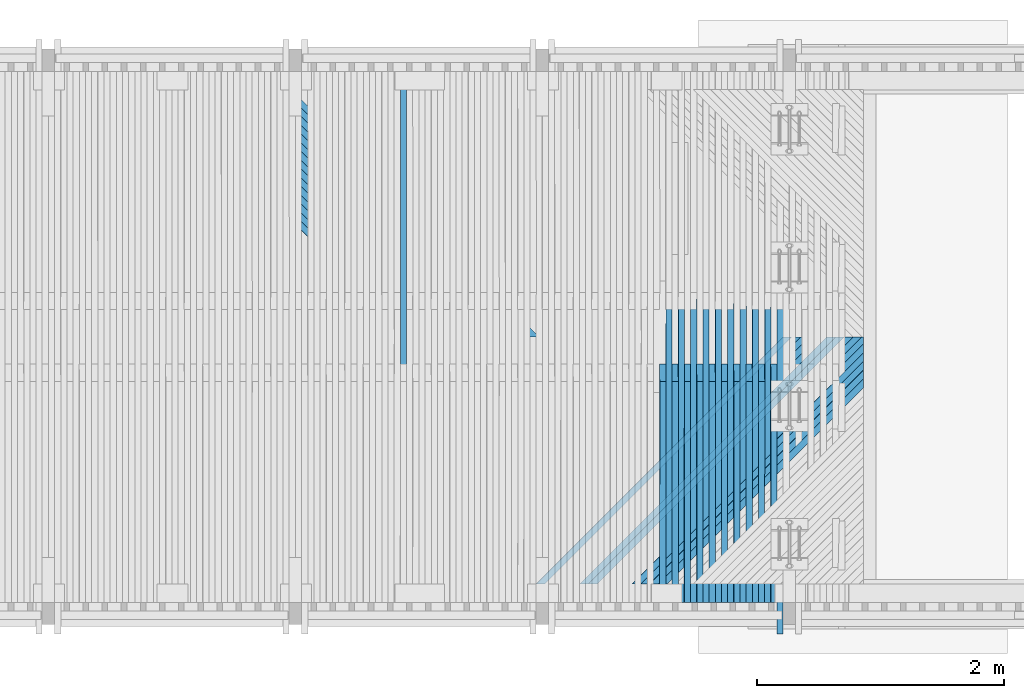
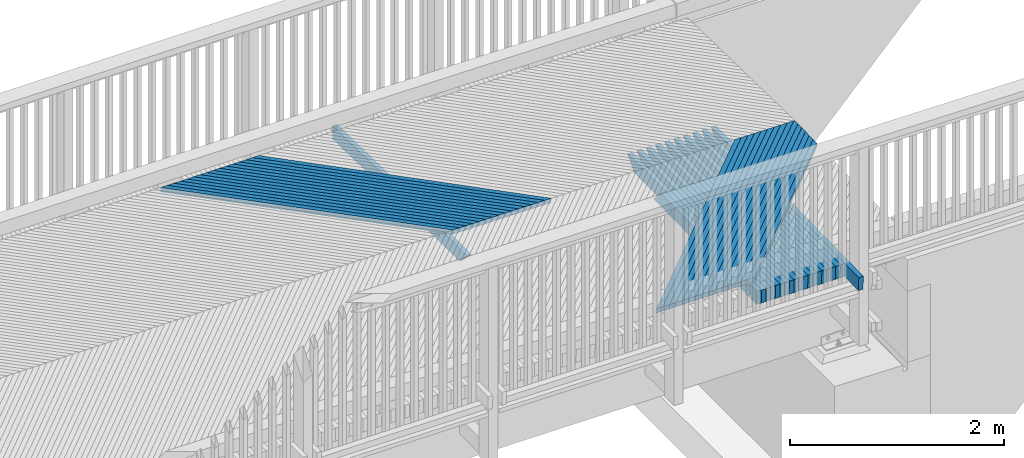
# One storey, part 40 of 52: 51 beams.
"""IFC2X3 building model written with IfcOpenShell, lengths in millimetres."""

from ifc_helpers import new_model, si_unit, frame, origin_with_axes, place, context, subcontext, project, spatial, faceted_brep, material, type_object, element, save


model = new_model("IFC2X3")

# Units and contexts
model_context = context("Model", 3, precision=1e-05, world=origin_with_axes())
body_context = subcontext(model_context, "Body", "Model", "MODEL_VIEW")
ifc_project = project(units=[si_unit("LENGTHUNIT", "METRE", prefix="MILLI"), si_unit("AREAUNIT", "SQUARE_METRE"), si_unit("VOLUMEUNIT", "CUBIC_METRE"), si_unit("MASSUNIT", "GRAM", prefix="KILO"), si_unit("TIMEUNIT", "SECOND"), si_unit("PLANEANGLEUNIT", "RADIAN"), si_unit("SOLIDANGLEUNIT", "STERADIAN"), si_unit("THERMODYNAMICTEMPERATUREUNIT", "DEGREE_CELSIUS"), si_unit("LUMINOUSINTENSITYUNIT", "LUMEN")], contexts=[model_context])

# Site, building, storey
site_placement = place(None, origin_with_axes())
site = spatial("IfcSite", under=ifc_project, at=site_placement, Name="Undefined", CompositionType="ELEMENT")
building_placement = place(site_placement, origin_with_axes())
building = spatial("IfcBuilding", under=site, at=building_placement, Name="Undefined", CompositionType="ELEMENT")
storey_placement = place(building_placement, origin_with_axes())
storey = spatial("IfcBuildingStorey", under=building, at=storey_placement, Name="Undefined", CompositionType="ELEMENT", Elevation=0.0)

# Beams
ifc_material = material(Name="TIMBER/Timber_Undefined")
beam_type_1 = type_object("IfcBeamType", Name="50*50", PredefinedType="NOTDEFINED")
beam_1_placement = place(storey_placement, frame((16976.0032446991, 2364.50010032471, 3169.21309384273), z_axis=(0.70684402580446, -0.706981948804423, -0.0234104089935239), x_axis=(-0.707247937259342, -0.706948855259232, -0.00486531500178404)))
element("IfcBeam", 1, at=beam_1_placement, inside=storey, type_object=beam_type_1, material=ifc_material, Name="BEAM", ObjectType="50*50", context=body_context, shape_type="Brep", body=[
    faceted_brep([(2802.92643296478, -25.0, 25.0000000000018), (2852.92877373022, -25.0, -24.9999999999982), (2854.34301907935, 25.0, -24.9999999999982), (2804.3406783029, 25.0000000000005, 25.0000000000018), (506.193611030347, 25.0, -24.9999999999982), (556.165055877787, 25.0, 25.0), (557.091907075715, -24.9999999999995, 25.0000000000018), (507.120462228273, -25.0, -24.9999999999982)], [[[0, 1, 2, 3]], [[3, 2, 4, 5]], [[0, 3, 5, 6]], [[1, 0, 6, 7]], [[2, 1, 7, 4]], [[6, 5, 4, 7]]]),
])
beam_2_placement = place(storey_placement, frame((16905.2868086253, 2364.50010032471, 3170.26326789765), z_axis=(0.706846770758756, -0.706981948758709, -0.0233273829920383), x_axis=(-0.707247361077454, -0.706948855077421, -0.00494838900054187)))
element("IfcBeam", 2, at=beam_2_placement, inside=storey, type_object=beam_type_1, material=ifc_material, Name="BEAM", ObjectType="50*50", context=body_context, shape_type="Brep", body=[
    faceted_brep([(2802.92643296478, -25.0, 25.0000000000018), (2852.92877373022, -25.0, -24.9999999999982), (2854.34301907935, 25.0, -24.9999999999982), (2804.3406783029, 25.0000000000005, 25.0000000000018), (406.209812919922, 24.9999999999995, -24.9999999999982), (456.181492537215, 24.9999999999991, 25.0000000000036), (457.100042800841, -25.0000000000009, 25.0), (407.128363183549, -25.0000000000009, -24.9999999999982)], [[[0, 1, 2, 3]], [[3, 2, 4, 5]], [[0, 3, 5, 6]], [[1, 0, 6, 7]], [[2, 1, 7, 4]], [[6, 5, 4, 7]]]),
])
beam_3_placement = place(storey_placement, frame((16834.5702496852, 2364.50010032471, 3171.30513554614), z_axis=(0.706849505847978, -0.706981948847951, -0.023244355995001), x_axis=(-0.707246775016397, -0.70694885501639, -0.00503146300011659)))
element("IfcBeam", 3, at=beam_3_placement, inside=storey, type_object=beam_type_1, material=ifc_material, Name="BEAM", ObjectType="50*50", context=body_context, shape_type="Brep", body=[
    faceted_brep([(2802.92643296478, -25.0, 25.0000000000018), (2852.92877373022, -25.0, -24.9999999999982), (2854.34301907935, 25.0, -24.9999999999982), (2804.3406783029, 25.0000000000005, 25.0000000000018), (306.225682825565, 25.0000000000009, -24.9999999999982), (356.197597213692, 25.0000000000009, 25.0), (357.107846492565, -24.9999999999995, 25.0), (307.135932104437, -24.9999999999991, -25.0)], [[[0, 1, 2, 3]], [[3, 2, 4, 5]], [[0, 3, 5, 6]], [[1, 0, 6, 7]], [[2, 1, 7, 4]], [[6, 5, 4, 7]]]),
])
beam_4_placement = place(storey_placement, frame((16763.8535688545, 2364.50010032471, 3172.33869677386), z_axis=(0.706852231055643, -0.706981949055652, -0.0231613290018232), x_axis=(-0.707246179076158, -0.706948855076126, -0.0051145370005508)))
element("IfcBeam", 4, at=beam_4_placement, inside=storey, type_object=beam_type_1, material=ifc_material, Name="BEAM", ObjectType="50*50", context=body_context, shape_type="Brep", body=[
    faceted_brep([(2802.92643296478, -25.0, 25.0000000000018), (2852.92877373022, -25.0, -24.9999999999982), (2854.34301907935, 25.0, -24.9999999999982), (2804.3406783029, 25.0000000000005, 25.0000000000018), (206.241217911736, 25.0000000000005, -25.0), (256.213367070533, 25.0000000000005, 25.0000000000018), (257.115315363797, -25.0, 25.0000000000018), (207.143166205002, -25.0, -25.0)], [[[0, 1, 2, 3]], [[3, 2, 4, 5]], [[0, 3, 5, 6]], [[1, 0, 6, 7]], [[2, 1, 7, 4]], [[6, 5, 4, 7]]]),
])
beam_5_placement = place(storey_placement, frame((16693.1367671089, 2364.50010032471, 3173.36395156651), z_axis=(0.706854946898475, -0.706981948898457, -0.0230783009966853), x_axis=(-0.7072455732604, -0.706948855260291, -0.00519761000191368)))
element("IfcBeam", 5, at=beam_5_placement, inside=storey, type_object=beam_type_1, material=ifc_material, Name="BEAM", ObjectType="50*50", context=body_context, shape_type="Brep", body=[
    faceted_brep([(2802.92643296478, -25.0, 25.0000000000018), (2852.92877373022, -25.0, -24.9999999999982), (2854.34301907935, 25.0, -24.9999999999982), (2804.3406783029, 25.0000000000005, 25.0000000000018), (106.256415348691, 25.0, -25.0), (156.228799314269, 24.9999999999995, 25.0), (157.122446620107, -25.0000000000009, 25.0000000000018), (107.150062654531, -25.0000000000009, -24.9999999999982)], [[[0, 1, 2, 3]], [[3, 2, 4, 5]], [[0, 3, 5, 6]], [[1, 0, 6, 7]], [[2, 1, 7, 4]], [[6, 5, 4, 7]]]),
])
beam_6_placement = place(storey_placement, frame((16622.419845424, 2364.50010032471, 3174.38089991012), z_axis=(0.706857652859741, -0.706981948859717, -0.0229952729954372), x_axis=(-0.707244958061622, -0.706948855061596, -0.00528068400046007)))
element("IfcBeam", 6, at=beam_6_placement, inside=storey, type_object=beam_type_1, material=ifc_material, Name="BEAM", ObjectType="50*50", context=body_context, shape_type="Brep", body=[
    faceted_brep([(2802.92643296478, -25.0, 25.0000000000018), (2852.92877373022, -25.0, -24.9999999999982), (2854.34301907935, 25.0, -24.9999999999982), (2804.3406783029, 25.0000000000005, 25.0000000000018), (23.4806436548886, -25.0, -25.0), (24.894245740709, 25.0, -25.0), (15.3243279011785, -25.0000000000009, -16.8278154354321), (15.5892580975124, 25.0, -15.6769087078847), (56.2438911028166, 24.9999999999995, 25.0000000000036), (57.1292373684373, -25.0000000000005, 25.0000000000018)], [[[0, 1, 2, 3]], [[4, 5, 2, 1]], [[5, 4, 6, 7]], [[3, 2, 5, 7, 8]], [[0, 3, 8, 9]], [[4, 1, 0, 9, 6]], [[8, 7, 6, 9]]]),
])
for number, where, z_axis, x_axis, name in (
    (7, (16551.7028047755, 2364.50010032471, 3175.38954179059), (0.706860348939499, -0.70698194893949, -0.0229122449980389), (-0.707244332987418, -0.706948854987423, -0.00536375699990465), "BEAM"),
    (8, (16480.9856461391, 2364.50010032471, 3176.38987719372), (0.706863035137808, -0.706981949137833, -0.0228292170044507), (-0.707243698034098, -0.706948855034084, -0.00544683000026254), "BEAM"),
    (9, (16410.2683704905, 2364.50010032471, 3177.38190610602), (0.706865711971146, -0.706981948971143, -0.0227461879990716), (-0.707243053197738, -0.706948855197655, -0.00552990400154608), "BEAM"),
    (10, (16339.5509788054, 2364.50010032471, 3178.36562851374), (0.706868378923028, -0.706981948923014, -0.0226631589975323), (-0.707242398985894, -0.706948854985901, -0.00561297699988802), "BEAM"),
    (11, (16268.8334720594, 2364.50010032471, 3179.34104440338), (0.706871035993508, -0.706981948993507, -0.0225801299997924), (-0.707241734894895, -0.706948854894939, -0.00569604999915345), "BEAM"),
    (12, (16198.1158512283, 2364.50010032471, 3180.30815376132), (0.706873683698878, -0.706981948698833, -0.0224970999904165), (-0.707241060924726, -0.706948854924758, -0.00577912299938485), "BEAM"),
    (13, (16127.3981172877, 2364.50010032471, 3181.26695657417), (0.706876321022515, -0.706981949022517, -0.0224140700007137), (-0.707240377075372, -0.706948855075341, -0.00586219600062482), "BEAM"),
    (14, (16056.6802712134, 2364.50010032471, 3182.21745282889), (0.706878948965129, -0.706981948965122, -0.0223310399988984), (-0.70723968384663, -0.706948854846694, -0.00594526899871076), "BEAM"),
    (15, (15985.962313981, 2364.50010032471, 3183.15964251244), (0.706881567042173, -0.706981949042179, -0.0222480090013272), (-0.707238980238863, -0.706948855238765, -0.00602834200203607), "BEAM"),
):
    element("IfcBeam", number, at=place(storey_placement, frame(where, z_axis=z_axis, x_axis=x_axis)), inside=storey, type_object=beam_type_1, material=ifc_material, Name=name, ObjectType="50*50", context=body_context, shape_type="Brep", body=[
        faceted_brep([(24.894245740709, 25.0, -25.0), (-25.0086637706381, 24.9999999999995, 24.9999999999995), (2804.3406783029, 25.0000000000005, 25.0000000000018), (2854.34301907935, 25.0, -24.9999999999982), (-26.4222658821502, -25.0, 24.9999999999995), (2802.92643296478, -25.0, 25.0000000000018), (23.4806436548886, -25.0, -25.0), (2852.92877373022, -25.0, -24.9999999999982)], [[[0, 1, 2, 3]], [[1, 4, 5, 2]], [[4, 6, 7, 5]], [[6, 0, 3, 7]], [[5, 7, 3, 2]], [[6, 4, 1, 0]]]),
    ])
for number, where, z_axis, x_axis, name in (
    (16, (13935.0975862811, 2365.49989967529, 3206.86972998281), (0.706953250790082, 0.706981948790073, -0.019839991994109), (-0.707214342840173, 0.706948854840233, -0.00843741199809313), "BEAM"),
    (17, (13864.3767480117, 2365.49989967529, 3207.56271699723), (0.706955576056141, 0.706981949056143, -0.019756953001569), (-0.707213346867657, 0.706948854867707, -0.00852048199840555), "BEAM"),
    (18, (13793.6558288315, 2365.49989967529, 3208.24739709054), (0.706957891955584, 0.706981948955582, -0.019673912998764), (-0.70721234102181, 0.706948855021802, -0.00860355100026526), "BEAM"),
    (19, (13722.9348297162, 2365.49989967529, 3208.92377025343), (0.706960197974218, 0.706981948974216, -0.0195908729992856), (-0.7072113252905, 0.706948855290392, -0.00868662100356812), "BEAM"),
    (20, (13652.2137516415, 2365.49989967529, 3209.5918364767), (0.706962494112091, 0.706981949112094, -0.0195078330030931), (-0.707210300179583, 0.706948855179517, -0.0087696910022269), "BEAM"),
    (21, (13581.4925955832, 2365.49989967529, 3210.25159575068), (0.706964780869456, 0.706981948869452, -0.0194247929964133), (-0.707209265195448, 0.706948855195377, -0.00885276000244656), "BEAM"),
    (22, (13510.771362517, 2365.49989967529, 3210.90304806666), (0.706967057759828, 0.706981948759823, -0.019341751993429), (-0.70720822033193, 0.706948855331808, -0.00893582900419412), "BEAM"),
    (23, (13440.0500534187, 2365.49989967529, 3211.54619341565), (0.706969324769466, 0.706981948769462, -0.0192587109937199), (-0.707207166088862, 0.706948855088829, -0.00901889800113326), "BEAM"),
    (24, (13369.3286692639, 2365.49989967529, 3212.18103178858), (0.706971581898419, 0.706981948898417, -0.0191756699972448), (-0.707206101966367, 0.706948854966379, -0.00910196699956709), "BEAM"),
    (25, (13298.6072110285, 2365.49989967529, 3212.80756317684), (0.706973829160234, 0.706981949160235, -0.0190926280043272), (-0.707205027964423, 0.706948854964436, -0.00918503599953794), "BEAM"),
    (26, (13227.8856796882, 2365.49989967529, 3213.42578757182), (0.706976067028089, 0.706981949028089, -0.0190095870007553), (-0.707203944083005, 0.706948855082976, -0.00926810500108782), "BEAM"),
    (27, (13157.1640762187, 2365.49989967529, 3214.03570496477), (0.706978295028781, 0.70698194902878, -0.0189265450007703), (-0.707202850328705, 0.706948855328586, -0.00935117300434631), "BEAM"),
    (28, (13086.4424015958, 2365.49989967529, 3214.63731534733), (0.70698051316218, 0.706981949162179, -0.0188435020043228), (-0.707201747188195, 0.706948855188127, -0.00943424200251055), "BEAM"),
    (29, (13015.7206567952, 2365.49989967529, 3215.23061871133), (0.706982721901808, 0.706981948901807, -0.0187604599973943), (-0.707200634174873, 0.706948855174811, -0.00951731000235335), "BEAM"),
    (30, (12944.9988427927, 2365.49989967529, 3215.81561504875), (0.706984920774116, 0.706981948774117, -0.0186774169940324), (-0.707199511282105, 0.706948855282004, -0.0096003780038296), "BEAM"),
):
    element("IfcBeam", number, at=place(storey_placement, frame(where, z_axis=z_axis, x_axis=x_axis)), inside=storey, type_object=beam_type_1, material=ifc_material, Name=name, ObjectType="50*50", context=body_context, shape_type="Brep", body=[
        faceted_brep([(23.5869248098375, 25.0, -25.0000000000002), (-26.4154158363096, 25.0000000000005, 24.9999999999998), (2802.92643296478, 25.0, 24.9999999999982), (2852.92877373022, 25.0000000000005, -25.0), (-25.0011704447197, -25.0, 24.9999999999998), (2804.3406783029, -25.0000000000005, 24.9999999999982), (25.0011701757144, -25.0, -25.0), (2854.34301907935, -24.9999999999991, -25.0)], [[[0, 1, 2, 3]], [[1, 4, 5, 2]], [[4, 6, 7, 5]], [[6, 0, 3, 7]], [[5, 7, 3, 2]], [[6, 4, 1, 0]]]),
    ])
beam_type_2 = type_object("IfcBeamType", Name="150*50", PredefinedType="NOTDEFINED")
for number, where, z_axis, x_axis, name in (
    (31, (15874.7290061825, 216.50460761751, 3041.62863633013), (0.0130016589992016, -0.0199960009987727, 0.999715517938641), (0.000260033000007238, 0.999800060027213, 0.0199943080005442), "BEAM"),
    (32, (15774.717424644, 216.50460761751, 3042.92875591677), (0.0128355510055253, -0.0199960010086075, 0.999717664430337), (0.000256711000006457, 0.999800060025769, 0.0199943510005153), "BEAM"),
):
    element("IfcBeam", number, at=place(storey_placement, frame(where, z_axis=z_axis, x_axis=x_axis)), inside=storey, type_object=beam_type_2, material=ifc_material, Name=name, ObjectType="150*50", context=body_context, shape_type="Brep", body=[
        faceted_brep([(-1.67788130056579e-07, -24.9999999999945, -74.9999999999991), (1.67786311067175e-07, -24.9999999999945, 75.0000000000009), (1.67786311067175e-07, 25.0000000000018, 75.0), (-1.67787220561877e-07, 25.0000000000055, -75.0), (1789.96936433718, -25.0000000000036, 74.9999999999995), (1789.96936408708, 24.9999999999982, 75.0000000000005), (1928.42646328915, 24.9999999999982, -74.9999999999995), (1928.42646353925, -25.0, -75.0)], [[[0, 1, 2, 3]], [[2, 1, 4, 5]], [[3, 2, 5, 6]], [[0, 3, 6, 7]], [[1, 0, 7, 4]], [[6, 5, 4, 7]]]),
    ])
beam_7_placement = place(storey_placement, frame((15824.7332279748, 216.504607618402, 3042.27828425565), z_axis=(0.0130016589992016, -0.0199960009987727, 0.999715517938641), x_axis=(0.000260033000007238, 0.999800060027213, 0.0199943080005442)))
element("IfcBeam", 33, at=beam_7_placement, inside=storey, type_object=beam_type_2, material=ifc_material, Name="BEAM", ObjectType="150*50", context=body_context, shape_type="Brep", body=[
    faceted_brep([(-1.67788130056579e-07, -24.9999999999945, -74.9999999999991), (1.67786311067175e-07, -24.9999999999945, 75.0000000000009), (1.67786311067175e-07, 25.0000000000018, 75.0), (-1.67787220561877e-07, 25.0000000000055, -75.0), (2375.00494422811, 25.0000000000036, -74.9999999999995), (2375.0049444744, -24.9999999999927, -74.9999999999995), (2510.5924871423, -24.9999999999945, 60.5875430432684), (2150.42514405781, -24.9999999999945, 75.0000000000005), (2150.42515052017, 25.0000000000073, 75.0), (2510.59248715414, 25.0000000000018, 60.5875433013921)], [[[0, 1, 2, 3]], [[0, 3, 4, 5]], [[1, 0, 5, 6, 7]], [[2, 1, 7, 8]], [[4, 3, 2, 8, 9]], [[5, 4, 9, 6]], [[6, 9, 8, 7]]]),
])
beam_8_placement = place(storey_placement, frame((15674.7056284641, 216.50460761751, 3044.21225802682), z_axis=(0.012669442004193, -0.0199960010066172, 0.999719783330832), x_axis=(0.000253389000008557, 0.99980006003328, 0.0199943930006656)))
element("IfcBeam", 34, at=beam_8_placement, inside=storey, type_object=beam_type_2, material=ifc_material, Name="BEAM", ObjectType="150*50", context=body_context, shape_type="Brep", body=[
    faceted_brep([(-1.67788130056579e-07, -24.9999999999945, -74.9999999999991), (1.67786311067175e-07, -24.9999999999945, 75.0000000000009), (1.67786311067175e-07, 25.0000000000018, 75.0), (-1.67787220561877e-07, 25.0000000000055, -75.0), (1789.96936433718, -25.0000000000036, 74.9999999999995), (1789.96936408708, 24.9999999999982, 75.0000000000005), (1928.42646328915, 24.9999999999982, -74.9999999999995), (1928.42646353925, -25.0, -75.0)], [[[0, 1, 2, 3]], [[2, 1, 4, 5]], [[3, 2, 5, 6]], [[0, 3, 6, 7]], [[1, 0, 7, 4]], [[6, 5, 4, 7]]]),
])
beam_9_placement = place(storey_placement, frame((15724.7215391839, 216.504607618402, 3043.57009676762), z_axis=(0.0128355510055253, -0.0199960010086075, 0.999717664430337), x_axis=(0.000256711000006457, 0.999800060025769, 0.0199943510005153)))
element("IfcBeam", 35, at=beam_9_placement, inside=storey, type_object=beam_type_2, material=ifc_material, Name="BEAM", ObjectType="150*50", context=body_context, shape_type="Brep", body=[
    faceted_brep([(-1.67788130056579e-07, -24.9999999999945, -74.9999999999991), (1.67786311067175e-07, -24.9999999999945, 75.0000000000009), (1.67786311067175e-07, 25.0000000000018, 75.0), (-1.67787220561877e-07, 25.0000000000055, -75.0), (2375.00494422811, 25.0000000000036, -74.9999999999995), (2375.0049444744, -24.9999999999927, -74.9999999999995), (2510.5924871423, -24.9999999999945, 60.5875430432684), (2150.42514405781, -24.9999999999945, 75.0000000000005), (2150.42515052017, 25.0000000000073, 75.0), (2510.59248715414, 25.0000000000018, 60.5875433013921)], [[[0, 1, 2, 3]], [[0, 3, 4, 5]], [[1, 0, 5, 6, 7]], [[2, 1, 7, 8]], [[4, 3, 2, 8, 9]], [[5, 4, 9, 6]], [[6, 9, 8, 7]]]),
])
beam_10_placement = place(storey_placement, frame((15574.6936204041, 216.50460761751, 3045.47914262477), z_axis=(0.0125033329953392, -0.0199960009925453, 0.999721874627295), x_axis=(0.000250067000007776, 0.999800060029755, 0.0199944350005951)))
element("IfcBeam", 36, at=beam_10_placement, inside=storey, type_object=beam_type_2, material=ifc_material, Name="BEAM", ObjectType="150*50", context=body_context, shape_type="Brep", body=[
    faceted_brep([(-1.67788130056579e-07, -24.9999999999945, -74.9999999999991), (1.67786311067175e-07, -24.9999999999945, 75.0000000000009), (1.67786311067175e-07, 25.0000000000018, 75.0), (-1.67787220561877e-07, 25.0000000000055, -75.0), (1789.96936433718, -25.0000000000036, 74.9999999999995), (1789.96936408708, 24.9999999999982, 75.0000000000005), (1928.42646328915, 24.9999999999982, -74.9999999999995), (1928.42646353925, -25.0, -75.0)], [[[0, 1, 2, 3]], [[2, 1, 4, 5]], [[3, 2, 5, 6]], [[0, 3, 6, 7]], [[1, 0, 7, 4]], [[6, 5, 4, 7]]]),
])
beam_11_placement = place(storey_placement, frame((15624.7096371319, 216.504607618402, 3044.8452917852), z_axis=(0.012669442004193, -0.0199960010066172, 0.999719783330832), x_axis=(0.000253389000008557, 0.99980006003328, 0.0199943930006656)))
element("IfcBeam", 37, at=beam_11_placement, inside=storey, type_object=beam_type_2, material=ifc_material, Name="BEAM", ObjectType="150*50", context=body_context, shape_type="Brep", body=[
    faceted_brep([(-1.67788130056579e-07, -24.9999999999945, -74.9999999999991), (1.67786311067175e-07, -24.9999999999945, 75.0000000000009), (1.67786311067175e-07, 25.0000000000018, 75.0), (-1.67787220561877e-07, 25.0000000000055, -75.0), (2375.00494422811, 25.0000000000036, -74.9999999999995), (2375.0049444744, -24.9999999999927, -74.9999999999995), (2510.5924871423, -24.9999999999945, 60.5875430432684), (2150.42514405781, -24.9999999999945, 75.0000000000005), (2150.42515052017, 25.0000000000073, 75.0), (2510.59248715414, 25.0000000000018, 60.5875433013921)], [[[0, 1, 2, 3]], [[0, 3, 4, 5]], [[1, 0, 5, 6, 7]], [[2, 1, 7, 8]], [[4, 3, 2, 8, 9]], [[5, 4, 9, 6]], [[6, 9, 8, 7]]]),
])
beam_12_placement = place(storey_placement, frame((15474.6814032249, 216.50460761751, 3046.72940967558), z_axis=(0.0123372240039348, -0.0199960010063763, 0.999723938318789), x_axis=(0.000246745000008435, 0.999800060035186, 0.0199944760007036)))
element("IfcBeam", 38, at=beam_12_placement, inside=storey, type_object=beam_type_2, material=ifc_material, Name="BEAM", ObjectType="150*50", context=body_context, shape_type="Brep", body=[
    faceted_brep([(-1.67788130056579e-07, -24.9999999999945, -74.9999999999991), (1.67786311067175e-07, -24.9999999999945, 75.0000000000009), (1.67786311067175e-07, 25.0000000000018, 75.0), (-1.67787220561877e-07, 25.0000000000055, -75.0), (1789.96936433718, -25.0000000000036, 74.9999999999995), (1789.96936408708, 24.9999999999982, 75.0000000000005), (1928.42646328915, 24.9999999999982, -74.9999999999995), (1928.42646353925, -25.0, -75.0)], [[[0, 1, 2, 3]], [[2, 1, 4, 5]], [[3, 2, 5, 6]], [[0, 3, 6, 7]], [[1, 0, 7, 4]], [[6, 5, 4, 7]]]),
])
beam_13_placement = place(storey_placement, frame((15524.6975245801, 216.504607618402, 3046.10386927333), z_axis=(0.0125033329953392, -0.0199960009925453, 0.999721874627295), x_axis=(0.000250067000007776, 0.999800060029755, 0.0199944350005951)))
element("IfcBeam", 39, at=beam_13_placement, inside=storey, type_object=beam_type_2, material=ifc_material, Name="BEAM", ObjectType="150*50", context=body_context, shape_type="Brep", body=[
    faceted_brep([(-1.67788130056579e-07, -24.9999999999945, -74.9999999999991), (1.67786311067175e-07, -24.9999999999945, 75.0000000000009), (1.67786311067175e-07, 25.0000000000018, 75.0), (-1.67787220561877e-07, 25.0000000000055, -75.0), (2375.00494422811, 25.0000000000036, -74.9999999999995), (2375.0049444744, -24.9999999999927, -74.9999999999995), (2510.5924871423, -24.9999999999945, 60.5875430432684), (2150.42514405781, -24.9999999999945, 75.0000000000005), (2150.42515052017, 25.0000000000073, 75.0), (2510.59248715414, 25.0000000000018, 60.5875433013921)], [[[0, 1, 2, 3]], [[0, 3, 4, 5]], [[1, 0, 5, 6, 7]], [[2, 1, 7, 8]], [[4, 3, 2, 8, 9]], [[5, 4, 9, 6]], [[6, 9, 8, 7]]]),
])
beam_14_placement = place(storey_placement, frame((15374.6689796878, 216.50460761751, 3047.96305914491), z_axis=(0.0121711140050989, -0.0199960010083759, 0.999725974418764), x_axis=(0.000243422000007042, 0.999800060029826, 0.0199945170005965)))
element("IfcBeam", 40, at=beam_14_placement, inside=storey, type_object=beam_type_2, material=ifc_material, Name="BEAM", ObjectType="150*50", context=body_context, shape_type="Brep", body=[
    faceted_brep([(-1.67788130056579e-07, -24.9999999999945, -74.9999999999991), (1.67786311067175e-07, -24.9999999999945, 75.0000000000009), (1.67786311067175e-07, 25.0000000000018, 75.0), (-1.67787220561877e-07, 25.0000000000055, -75.0), (1789.96936433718, -25.0000000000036, 74.9999999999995), (1789.96936408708, 24.9999999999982, 75.0000000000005), (1928.42646328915, 24.9999999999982, -74.9999999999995), (1928.42646353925, -25.0, -75.0)], [[[0, 1, 2, 3]], [[2, 1, 4, 5]], [[3, 2, 5, 6]], [[0, 3, 6, 7]], [[1, 0, 7, 4]], [[6, 5, 4, 7]]]),
])
beam_15_placement = place(storey_placement, frame((15424.6852042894, 216.504607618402, 3047.34582919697), z_axis=(0.0123372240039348, -0.0199960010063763, 0.999723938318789), x_axis=(0.000246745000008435, 0.999800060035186, 0.0199944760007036)))
element("IfcBeam", 41, at=beam_15_placement, inside=storey, type_object=beam_type_2, material=ifc_material, Name="BEAM", ObjectType="150*50", context=body_context, shape_type="Brep", body=[
    faceted_brep([(-1.67788130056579e-07, -24.9999999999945, -74.9999999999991), (1.67786311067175e-07, -24.9999999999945, 75.0000000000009), (1.67786311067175e-07, 25.0000000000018, 75.0), (-1.67787220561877e-07, 25.0000000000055, -75.0), (2375.00494422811, 25.0000000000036, -74.9999999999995), (2375.0049444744, -24.9999999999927, -74.9999999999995), (2510.5924871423, -24.9999999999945, 60.5875430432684), (2150.42514405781, -24.9999999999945, 75.0000000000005), (2150.42515052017, 25.0000000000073, 75.0), (2510.59248715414, 25.0000000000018, 60.5875433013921)], [[[0, 1, 2, 3]], [[0, 3, 4, 5]], [[1, 0, 5, 6, 7]], [[2, 1, 7, 8]], [[4, 3, 2, 8, 9]], [[5, 4, 9, 6]], [[6, 9, 8, 7]]]),
])
beam_16_placement = place(storey_placement, frame((15274.6563525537, 216.50460761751, 3049.1800909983), z_axis=(0.0120050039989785, -0.0199960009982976, 0.999727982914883), x_axis=(0.000240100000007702, 0.999800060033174, 0.0199945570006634)))
element("IfcBeam", 42, at=beam_16_placement, inside=storey, type_object=beam_type_2, material=ifc_material, Name="BEAM", ObjectType="150*50", context=body_context, shape_type="Brep", body=[
    faceted_brep([(-1.67788130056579e-07, -24.9999999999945, -74.9999999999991), (1.67786311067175e-07, -24.9999999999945, 75.0000000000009), (1.67786311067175e-07, 25.0000000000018, 75.0), (-1.67787220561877e-07, 25.0000000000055, -75.0), (1789.96936433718, -25.0000000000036, 74.9999999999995), (1789.96936408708, 24.9999999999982, 75.0000000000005), (1928.42646328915, 24.9999999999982, -74.9999999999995), (1928.42646353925, -25.0, -75.0)], [[[0, 1, 2, 3]], [[2, 1, 4, 5]], [[3, 2, 5, 6]], [[0, 3, 6, 7]], [[1, 0, 7, 4]], [[6, 5, 4, 7]]]),
])
beam_17_placement = place(storey_placement, frame((15324.672679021, 216.504607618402, 3048.57117152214), z_axis=(0.0121711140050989, -0.0199960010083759, 0.999725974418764), x_axis=(0.000243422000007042, 0.999800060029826, 0.0199945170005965)))
element("IfcBeam", 43, at=beam_17_placement, inside=storey, type_object=beam_type_2, material=ifc_material, Name="BEAM", ObjectType="150*50", context=body_context, shape_type="Brep", body=[
    faceted_brep([(-1.67788130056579e-07, -24.9999999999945, -74.9999999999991), (1.67786311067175e-07, -24.9999999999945, 75.0000000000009), (1.67786311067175e-07, 25.0000000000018, 75.0), (-1.67787220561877e-07, 25.0000000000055, -75.0), (2375.00494422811, 25.0000000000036, -74.9999999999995), (2375.0049444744, -24.9999999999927, -74.9999999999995), (2510.5924871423, -24.9999999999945, 60.5875430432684), (2150.42514405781, -24.9999999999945, 75.0000000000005), (2150.42515052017, 25.0000000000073, 75.0), (2510.59248715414, 25.0000000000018, 60.5875433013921)], [[[0, 1, 2, 3]], [[0, 3, 4, 5]], [[1, 0, 5, 6, 7]], [[2, 1, 7, 8]], [[4, 3, 2, 8, 9]], [[5, 4, 9, 6]], [[6, 9, 8, 7]]]),
])
beam_18_placement = place(storey_placement, frame((15174.6435245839, 216.50460761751, 3050.38050520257), z_axis=(0.0118388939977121, -0.019996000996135, 0.999729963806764), x_axis=(0.0002367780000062, 0.999800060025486, 0.0199945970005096)))
element("IfcBeam", 44, at=beam_18_placement, inside=storey, type_object=beam_type_2, material=ifc_material, Name="BEAM", ObjectType="150*50", context=body_context, shape_type="Brep", body=[
    faceted_brep([(-1.67788130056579e-07, -24.9999999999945, -74.9999999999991), (1.67786311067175e-07, -24.9999999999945, 75.0000000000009), (1.67786311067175e-07, 25.0000000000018, 75.0), (-1.67787220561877e-07, 25.0000000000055, -75.0), (1789.96936433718, -25.0000000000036, 74.9999999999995), (1789.96936408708, 24.9999999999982, 75.0000000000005), (1928.42646328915, 24.9999999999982, -74.9999999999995), (1928.42646353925, -25.0, -75.0)], [[[0, 1, 2, 3]], [[2, 1, 4, 5]], [[3, 2, 5, 6]], [[0, 3, 6, 7]], [[1, 0, 7, 4]], [[6, 5, 4, 7]]]),
])
beam_19_placement = place(storey_placement, frame((15224.659951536, 216.504607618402, 3049.77989621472), z_axis=(0.0120050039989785, -0.0199960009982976, 0.999727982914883), x_axis=(0.000240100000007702, 0.999800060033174, 0.0199945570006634)))
element("IfcBeam", 45, at=beam_19_placement, inside=storey, type_object=beam_type_2, material=ifc_material, Name="BEAM", ObjectType="150*50", context=body_context, shape_type="Brep", body=[
    faceted_brep([(-1.67788130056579e-07, -24.9999999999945, -74.9999999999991), (1.67786311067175e-07, -24.9999999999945, 75.0000000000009), (1.67786311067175e-07, 25.0000000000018, 75.0), (-1.67787220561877e-07, 25.0000000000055, -75.0), (2375.00494422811, 25.0000000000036, -74.9999999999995), (2375.0049444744, -24.9999999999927, -74.9999999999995), (2510.5924871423, -24.9999999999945, 60.5875430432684), (2150.42514405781, -24.9999999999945, 75.0000000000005), (2150.42515052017, 25.0000000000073, 75.0), (2510.59248715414, 25.0000000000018, 60.5875433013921)], [[[0, 1, 2, 3]], [[0, 3, 4, 5]], [[1, 0, 5, 6, 7]], [[2, 1, 7, 8]], [[4, 3, 2, 8, 9]], [[5, 4, 9, 6]], [[6, 9, 8, 7]]]),
])
beam_20_placement = place(storey_placement, frame((15074.6304985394, 216.50460761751, 3051.56430172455), z_axis=(0.0116727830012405, -0.0199960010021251, 0.999731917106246), x_axis=(0.000233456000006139, 0.999800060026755, 0.0199946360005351)))
element("IfcBeam", 46, at=beam_20_placement, inside=storey, type_object=beam_type_2, material=ifc_material, Name="BEAM", ObjectType="150*50", context=body_context, shape_type="Brep", body=[
    faceted_brep([(-1.67788130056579e-07, -24.9999999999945, -74.9999999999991), (1.67786311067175e-07, -24.9999999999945, 75.0000000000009), (1.67786311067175e-07, 25.0000000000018, 75.0), (-1.67787220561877e-07, 25.0000000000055, -75.0), (1789.96936433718, -25.0000000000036, 74.9999999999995), (1789.96936408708, 24.9999999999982, 75.0000000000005), (1928.42646328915, 24.9999999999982, -74.9999999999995), (1928.42646353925, -25.0, -75.0)], [[[0, 1, 2, 3]], [[2, 1, 4, 5]], [[3, 2, 5, 6]], [[0, 3, 6, 7]], [[1, 0, 7, 4]], [[6, 5, 4, 7]]]),
])
beam_21_placement = place(storey_placement, frame((15124.6470245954, 216.504607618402, 3050.97200324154), z_axis=(0.0118388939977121, -0.019996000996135, 0.999729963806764), x_axis=(0.0002367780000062, 0.999800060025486, 0.0199945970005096)))
element("IfcBeam", 47, at=beam_21_placement, inside=storey, type_object=beam_type_2, material=ifc_material, Name="BEAM", ObjectType="150*50", context=body_context, shape_type="Brep", body=[
    faceted_brep([(-1.67788130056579e-07, -24.9999999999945, -74.9999999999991), (1.67786311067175e-07, -24.9999999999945, 75.0000000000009), (1.67786311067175e-07, 25.0000000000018, 75.0), (-1.67787220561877e-07, 25.0000000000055, -75.0), (2375.00494422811, 25.0000000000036, -74.9999999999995), (2375.0049444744, -24.9999999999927, -74.9999999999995), (2510.5924871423, -24.9999999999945, 60.5875430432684), (2150.42514405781, -24.9999999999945, 75.0000000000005), (2150.42515052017, 25.0000000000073, 75.0), (2510.59248715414, 25.0000000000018, 60.5875433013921)], [[[0, 1, 2, 3]], [[0, 3, 4, 5]], [[1, 0, 5, 6, 7]], [[2, 1, 7, 8]], [[4, 3, 2, 8, 9]], [[5, 4, 9, 6]], [[6, 9, 8, 7]]]),
])
beam_22_placement = place(storey_placement, frame((14974.6172771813, 216.50460761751, 3052.73148053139), z_axis=(0.0115066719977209, -0.0199960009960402, 0.999733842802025), x_axis=(0.00023013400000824, 0.999800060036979, 0.0199946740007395)))
element("IfcBeam", 48, at=beam_22_placement, inside=storey, type_object=beam_type_2, material=ifc_material, Name="BEAM", ObjectType="150*50", context=body_context, shape_type="Brep", body=[
    faceted_brep([(-1.67788130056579e-07, -24.9999999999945, -74.9999999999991), (1.67786311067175e-07, -24.9999999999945, 75.0000000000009), (1.67786311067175e-07, 25.0000000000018, 75.0), (-1.67787220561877e-07, 25.0000000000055, -75.0), (1789.96936433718, -25.0000000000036, 74.9999999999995), (1789.96936408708, 24.9999999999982, 75.0000000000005), (1928.42646328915, 24.9999999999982, -74.9999999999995), (1928.42646353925, -25.0, -75.0)], [[[0, 1, 2, 3]], [[2, 1, 4, 5]], [[3, 2, 5, 6]], [[0, 3, 6, 7]], [[1, 0, 7, 4]], [[6, 5, 4, 7]]]),
])
beam_23_placement = place(storey_placement, frame((15024.6339009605, 216.504607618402, 3052.14749256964), z_axis=(0.0116727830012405, -0.0199960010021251, 0.999731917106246), x_axis=(0.000233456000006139, 0.999800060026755, 0.0199946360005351)))
element("IfcBeam", 49, at=beam_23_placement, inside=storey, type_object=beam_type_2, material=ifc_material, Name="BEAM", ObjectType="150*50", context=body_context, shape_type="Brep", body=[
    faceted_brep([(-1.67788130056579e-07, -24.9999999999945, -74.9999999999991), (1.67786311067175e-07, -24.9999999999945, 75.0000000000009), (1.67786311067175e-07, 25.0000000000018, 75.0), (-1.67787220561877e-07, 25.0000000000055, -75.0), (2375.00494422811, 25.0000000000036, -74.9999999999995), (2375.0049444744, -24.9999999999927, -74.9999999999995), (2510.5924871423, -24.9999999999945, 60.5875430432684), (2150.42514405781, -24.9999999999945, 75.0000000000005), (2150.42515052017, 25.0000000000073, 75.0), (2510.59248715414, 25.0000000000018, 60.5875433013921)], [[[0, 1, 2, 3]], [[0, 3, 4, 5]], [[1, 0, 5, 6, 7]], [[2, 1, 7, 8]], [[4, 3, 2, 8, 9]], [[5, 4, 9, 6]], [[6, 9, 8, 7]]]),
])
beam_24_placement = place(storey_placement, frame((12874.8994002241, 4513.4953923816, 3073.40458690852), z_axis=(0.00801827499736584, 0.0199960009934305, 0.999767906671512), x_axis=(0.0001603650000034, -0.999800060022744, 0.0199953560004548)))
element("IfcBeam", 50, at=beam_24_placement, inside=storey, type_object=beam_type_2, material=ifc_material, Name="BEAM", ObjectType="150*50", context=body_context, shape_type="Brep", body=[
    faceted_brep([(-1.67788130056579e-07, -24.9999999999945, -74.9999999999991), (-1.67787220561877e-07, 25.0000000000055, -75.0), (2375.00494422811, 25.0000000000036, -74.9999999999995), (2375.0049444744, -24.9999999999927, -74.9999999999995), (1.67786311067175e-07, -24.9999999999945, 75.0000000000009), (1.67786311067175e-07, 25.0000000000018, 75.0), (2150.42515052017, 25.0000000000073, 75.0), (2510.59248715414, 25.0000000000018, 60.5875433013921), (2510.5924871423, -24.9999999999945, 60.5875430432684), (2150.42514405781, -24.9999999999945, 75.0000000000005)], [[[0, 1, 2, 3]], [[0, 4, 5, 1]], [[2, 1, 5, 6, 7]], [[3, 2, 7, 8]], [[4, 0, 3, 8, 9]], [[5, 4, 9, 6]], [[8, 7, 6, 9]]]),
])
beam_25_placement = place(storey_placement, frame((15924.4362763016, -41.4438078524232, 3035.81299747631), z_axis=(0.0131663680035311, -0.0199960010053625, 0.9997133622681), x_axis=(0.00026335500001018, 0.999800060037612, 0.0199942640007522)))
element("IfcBeam", 51, at=beam_25_placement, inside=storey, type_object=beam_type_2, material=ifc_material, Name="BEAM", ObjectType="150*50", context=body_context, shape_type="Brep", body=[
    faceted_brep([(-1.67788130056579e-07, -24.9999999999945, -74.9999999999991), (1.67786311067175e-07, -24.9999999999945, 75.0000000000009), (1.67786311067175e-07, 25.0000000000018, 75.0), (-1.67787220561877e-07, 25.0000000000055, -75.0), (2633.00494750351, 25.0, -74.9999999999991), (2633.00494763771, -25.0, -74.9999999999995), (2768.59248713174, -25.0, 60.5875397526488), (2408.42506549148, -25.0, 75.0000000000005), (2408.42506824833, 25.0, 75.0000000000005), (2768.59248710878, 24.9999999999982, 60.5875398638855)], [[[0, 1, 2, 3]], [[0, 3, 4, 5]], [[1, 0, 5, 6, 7]], [[2, 1, 7, 8]], [[4, 3, 2, 8, 9]], [[5, 4, 9, 6]], [[6, 9, 8, 7]]]),
])

save(model, "model.ifc")
